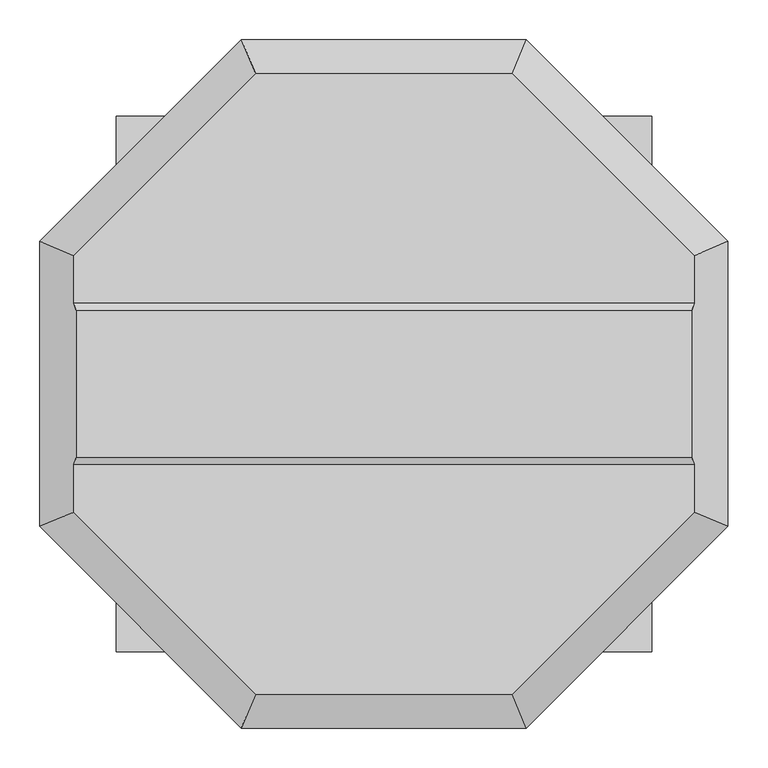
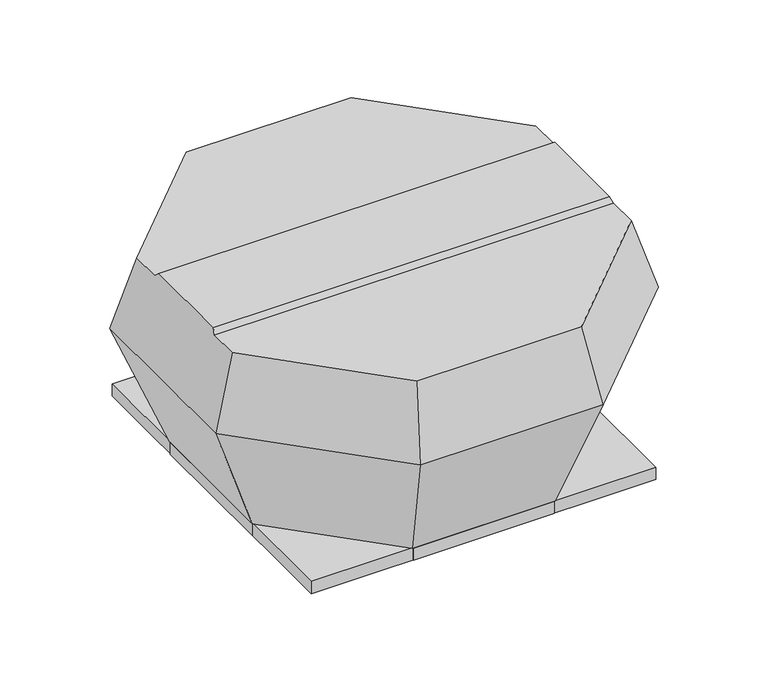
"""IFC4 building model written with IfcOpenShell, lengths in millimetres: unitary equipment geometry, VE-Wentylator-ParaForma-Harmann-VIVER_EC-Wywiewny : 4-450/5500EC."""

from ifc_helpers import new_model, si_unit, origin, place, context, project, spatial, faceted_brep, source, transform, mapped, element, save


def unitary_equipment_9f07731e(model_context):
    return source(origin(), model_context, "Body", "Brep", [
        faceted_brep([(385.2519817, -91.75, 394.0), (385.2519817, 91.75, 394.0), (-385.2519817, 91.75, 394.0), (-385.2519817, -91.75, 394.0), (387.9641195, 100.75, 385.0), (-387.9641195, 100.75, 385.0), (387.9641195, -100.75, 385.0), (-387.9641195, -100.75, 385.0), (160.7, -387.9641195, 385.0), (387.9641195, -160.7, 385.0), (-387.9641195, -160.7, 385.0), (-160.7, -387.9641195, 385.0), (387.9641195, 160.7, 385.0), (160.7, 387.9641195, 385.0), (-160.7, 387.9641195, 385.0), (-387.9641195, 160.7, 385.0), (178.3, -430.4542782, 244.0), (430.4542782, -178.3, 244.0), (430.4542782, 178.3, 244.0), (178.3, 430.4542782, 244.0), (-178.3, 430.4542782, 244.0), (-430.4542782, 178.3, 244.0), (-430.4542782, -178.3, 244.0), (-178.3, -430.4542782, 244.0), (139.25, -336.1792386, 1.5), (-139.25, -336.1792386, 1.5), (-336.1792386, -139.25, 1.5), (-336.1792386, 139.25, 1.5), (-139.25, 336.1792386, 1.5), (139.25, 336.1792386, 1.5), (336.1792386, 139.25, 1.5), (336.1792386, -139.25, 1.5)], [[[0, 1, 2, 3]], [[1, 4, 5, 2]], [[6, 0, 3, 7]], [[8, 9, 6, 7, 10, 11]], [[12, 13, 14, 15, 5, 4]], [[9, 8, 16, 17]], [[9, 17, 18, 12, 4, 1, 0, 6]], [[13, 12, 18, 19]], [[14, 13, 19, 20]], [[15, 14, 20, 21]], [[15, 21, 22, 10, 7, 3, 2, 5]], [[11, 10, 22, 23]], [[8, 11, 23, 16]], [[24, 25, 26, 27, 28, 29, 30, 31]], [[24, 31, 17, 16]], [[31, 30, 18, 17]], [[30, 29, 19, 18]], [[29, 28, 20, 19]], [[28, 27, 21, 20]], [[27, 26, 22, 21]], [[26, 25, 23, 22]], [[25, 24, 16, 23]]]),
        faceted_brep([(333.55, 333.55, -23.5), (333.55, 333.55, 0.0), (-333.55, 333.55, 0.0), (-333.55, 333.55, -23.5), (335.05, 335.05, 1.5), (335.05, 335.05, -23.5), (-335.05, 335.05, -23.5), (-335.05, 335.05, 1.5), (-333.55, -333.55, 0.0), (-333.55, -333.55, -23.5), (-335.05, -335.05, -23.5), (-335.05, -335.05, 1.5), (333.55, -333.55, 0.0), (333.55, -333.55, -23.5), (335.05, -335.05, -23.5), (335.05, -335.05, 1.5)], [[[0, 1, 2, 3]], [[4, 5, 6, 7]], [[3, 2, 8, 9]], [[7, 6, 10, 11]], [[9, 8, 12, 13]], [[11, 10, 14, 15]], [[13, 12, 1, 0]], [[5, 14, 10, 6], [3, 9, 13, 0]], [[15, 14, 5, 4]], [[7, 11, 15, 4]], [[1, 12, 8, 2]]]),
        faceted_brep([(-335.1, -137.5, -23.5), (-336.1, -137.5, -23.5), (-336.1, 137.5, -23.5), (-335.1, 137.5, -23.5), (-335.1, -137.5, 1.5), (-335.1, 137.5, 1.5), (-336.1, 137.5, 1.5), (-336.1, -137.5, 1.5)], [[[0, 1, 2, 3]], [[4, 5, 6, 7]], [[1, 0, 4, 7]], [[2, 1, 7, 6]], [[3, 2, 6, 5]], [[0, 3, 5, 4]]]),
        faceted_brep([(336.1, -137.5, -23.5), (335.1, -137.5, -23.5), (335.1, 137.5, -23.5), (336.1, 137.5, -23.5), (336.1, 137.5, 1.5), (335.1, 137.5, 1.5), (335.1, 5.0, 1.5), (335.1, -5.0, 1.5), (335.1, -137.5, 1.5), (336.1, -137.5, 1.5), (336.1, -5.0, 1.5), (336.1, 5.0, 1.5)], [[[0, 1, 2, 3]], [[4, 5, 6, 7, 8, 9, 10, 11]], [[1, 0, 9, 8]], [[2, 1, 8, 7, 6, 5]], [[3, 2, 5, 4]], [[0, 3, 4, 11, 10, 9]]]),
        faceted_brep([(137.5, 335.1, -23.5), (-137.5, 335.1, -23.5), (-137.5, 336.1, -23.5), (137.5, 336.1, -23.5), (137.5, 335.1, 1.5), (137.5, 336.1, 1.5), (-137.5, 336.1, 1.5), (-137.5, 335.1, 1.5)], [[[0, 1, 2, 3]], [[4, 5, 6, 7]], [[1, 0, 4, 7]], [[2, 1, 7, 6]], [[3, 2, 6, 5]], [[0, 3, 5, 4]]]),
        faceted_brep([(137.5, -336.1, -23.5), (-137.5, -336.1, -23.5), (-137.5, -335.1, -23.5), (137.5, -335.1, -23.5), (137.5, -336.1, 1.5), (137.5, -335.1, 1.5), (-137.5, -335.1, 1.5), (-137.5, -336.1, 1.5)], [[[0, 1, 2, 3]], [[4, 5, 6, 7]], [[1, 0, 4, 7]], [[2, 1, 7, 6]], [[3, 2, 6, 5]], [[0, 3, 5, 4]]]),
    ])


if __name__ == "__main__":
    model = new_model("IFC4")
    model_context = context("Model", 3, world=origin())
    ifc_project = project(units=[si_unit("LENGTHUNIT", "METRE", prefix="MILLI")], contexts=[model_context])
    site = spatial("IfcSite", under=ifc_project)
    building = spatial("IfcBuilding", under=site)
    placement = place(None, origin())
    unitary_equipment_shape = unitary_equipment_9f07731e(model_context)
    element("IfcUnitaryEquipment", 1, ObjectType="VE-Wentylator-ParaForma-Harmann-VIVER_EC-Wywiewny : 4-450/5500EC", at=placement, inside=building, context=model_context, shape_type="MappedRepresentation", body=[
        mapped(unitary_equipment_shape, transform((0.0, 0.0, 0.0), x_axis=(1.0, 0.0, 0.0), y_axis=(0.0, 1.0, 0.0), z_axis=(0.0, 0.0, 1.0))),
    ])
    save(model, "model.ifc")
